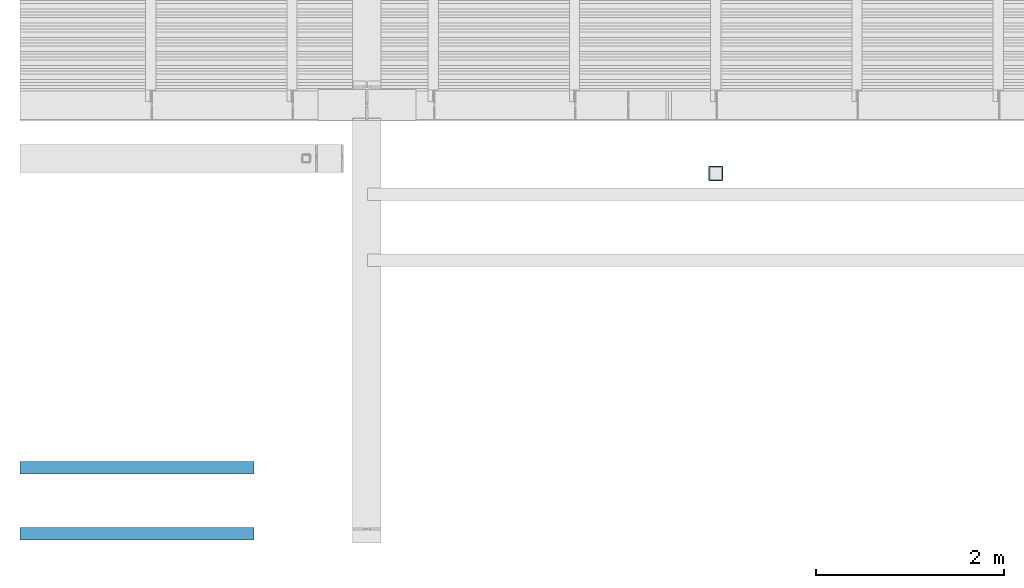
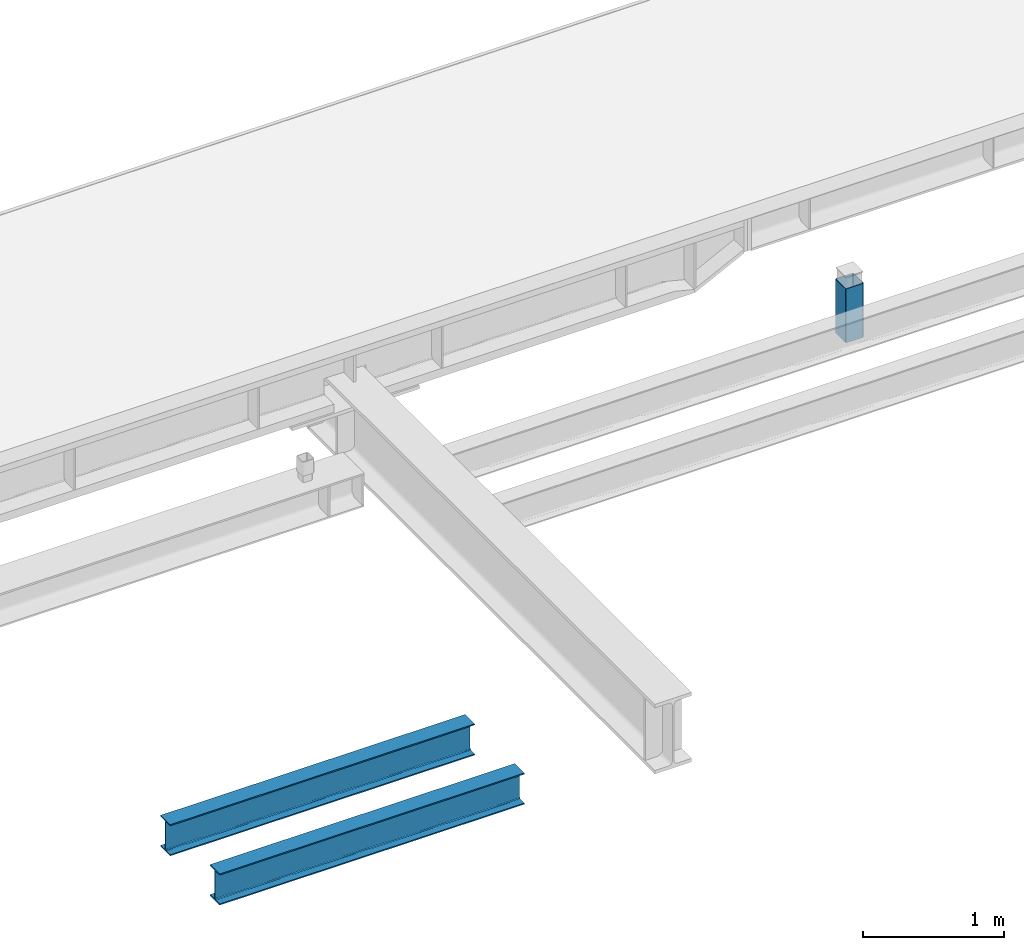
# One storey, part 4 of 12: 2 beams, 1 column.
"""IFC2X3 building model written with IfcOpenShell, lengths in millimetres."""

from ifc_helpers import new_model, entity, si_unit, converted_unit, derived_unit, direction, frame, origin_with_axes, place, context, subcontext, project, spatial, faceted_brep, type_object, element, save


model = new_model("IFC2X3")

# Units and contexts
model_context = context("Model", 3, precision=0.01, world=frame((0.0, 4.29681676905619e-09, 0.0)), true_north=direction((4.01073788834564e-13, 1.0)))
plan_context = context("Plan", 3, precision=0.01, world=frame((0.0, 4.29681676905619e-09, 0.0)), true_north=direction((4.01073788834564e-13, 1.0)))
body_context = subcontext(model_context, "Body", "Model", "MODEL_VIEW")
ifc_project = project(units=[converted_unit("PLANEANGLEUNIT", "DEGREE", entity("IfcPositiveLengthMeasure", 0.0174532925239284), si_unit("PLANEANGLEUNIT", "RADIAN"), dimensions=[0, 0, 0, 0, 0, 0, 0]), si_unit("AREAUNIT", "SQUARE_METRE"), si_unit("LENGTHUNIT", "METRE", prefix="MILLI"), si_unit("MASSUNIT", "GRAM", prefix="KILO"), si_unit("POWERUNIT", "WATT"), si_unit("PRESSUREUNIT", "PASCAL"), si_unit("FORCEUNIT", "NEWTON", prefix="KILO"), si_unit("ELECTRICVOLTAGEUNIT", "VOLT"), si_unit("ELECTRICCURRENTUNIT", "AMPERE"), si_unit("THERMODYNAMICTEMPERATUREUNIT", "DEGREE_CELSIUS"), si_unit("TIMEUNIT", "SECOND"), si_unit("VOLUMEUNIT", "CUBIC_METRE"), derived_unit("LINEARVELOCITYUNIT", [(si_unit("LENGTHUNIT", "METRE"), 1), (si_unit("TIMEUNIT", "SECOND"), -1)]), derived_unit("VOLUMETRICFLOWRATEUNIT", [(si_unit("VOLUMEUNIT", "CUBIC_METRE"), 1), (si_unit("TIMEUNIT", "SECOND"), -1)]), derived_unit("THERMALTRANSMITTANCEUNIT", [(si_unit("POWERUNIT", "WATT"), 1), (si_unit("THERMODYNAMICTEMPERATUREUNIT", "KELVIN"), -1), (si_unit("AREAUNIT", "SQUARE_METRE"), -1)]), derived_unit("SOUNDPRESSUREUNIT", [(si_unit("PRESSUREUNIT", "PASCAL"), 1)])], contexts=[model_context, plan_context])

# Site, building, storey
site_placement = place(None, frame((0.0, -4.29681676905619e-09, 0.0), z_axis=(0.0, 0.0, 1.0), x_axis=(1.0, 0.0, 0.0)))
site = spatial("IfcSite", under=ifc_project, at=site_placement, Name="Gardermoen", CompositionType="ELEMENT")
building_placement = place(site_placement, frame((0.0, 4.29681676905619e-09, 0.0), z_axis=(0.0, 0.0, 1.0), x_axis=(1.0, 0.0, 0.0)))
building = spatial("IfcBuilding", under=site, at=building_placement, Name="TH", CompositionType="ELEMENT")
storey_placement = place(building_placement, origin_with_axes())
storey = spatial("IfcBuildingStorey", under=building, at=storey_placement, Name="D", CompositionType="ELEMENT", Elevation=0.0)

# Column
column_type = type_object("IfcColumnType", Name="RHS150*5", PredefinedType="NOTDEFINED")
column_placement = place(storey_placement, frame((902499.999766, 484274.995625, 205240.0), z_axis=(0.0, 0.0, 1.0), x_axis=(0.0, -1.0, 0.0)))
element("IfcColumn", 1, at=column_placement, inside=storey, type_object=column_type, Name="STÅLSØYLE", ObjectType="RHS150*5", context=body_context, shape_type="Brep", body=[
    faceted_brep([(-70.0000185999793, 62.5, 3960.0), (-70.0000185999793, -62.5, 3960.0), (-69.9999999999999, -62.5, 4425.0000028), (-69.9999999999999, 62.5, 4425.0000028), (-69.8559082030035, -63.963177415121, 3959.9999993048), (-69.8558896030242, -63.963177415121, 4425.00000279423), (-69.429115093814, -65.3701257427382, 3959.99999827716), (-69.4290964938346, -65.3701257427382, 4425.00000277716), (-68.7360406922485, -66.666776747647, 3959.99999824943), (-68.736022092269, -66.666776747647, 4425.00000274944), (-67.8033194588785, -67.8033008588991, 3959.99999821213), (-67.803300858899, -67.8033008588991, 4425.00000271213), (-66.6667953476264, -68.7360220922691, 3959.99999849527), (-66.666776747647, -68.7360220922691, 4425.00000266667), (-65.3701443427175, -69.4290964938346, 3959.99999901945), (-65.3701257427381, -69.4290964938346, 4425.0000026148), (-63.9631960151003, -69.8558896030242, 3959.99999942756), (-63.9631774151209, -69.8558896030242, 4425.00000255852), (-62.5000185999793, -70.0, 3959.99999987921), (-62.5, -70.0, 4425.0000025), (62.4999814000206, -70.0, 3959.99999552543), (62.5, -70.0, 4424.9999975), (63.9631588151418, -69.8558896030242, 3960.0), (63.9631774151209, -69.8558896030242, 4424.99999744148), (65.370107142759, -69.4290964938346, 3959.99999977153), (65.3701257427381, -69.4290964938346, 4424.9999973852), (66.6667581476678, -68.7360220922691, 3959.99999941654), (66.666776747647, -68.7360220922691, 4424.99999733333), (67.8032822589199, -67.8033008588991, 3959.99999872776), (67.803300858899, -67.8033008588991, 4424.99999728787), (68.7360034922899, -66.666776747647, 3959.99999849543), (68.736022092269, -66.666776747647, 4424.99999725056), (69.4290778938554, -65.3701257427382, 3959.99999899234), (69.4290964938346, -65.3701257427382, 4424.99999722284), (69.855871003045, -63.963177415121, 3959.99999941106), (69.8558896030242, -63.963177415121, 4424.99999720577), (69.9999814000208, -62.5, 3959.99999980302), (69.9999999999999, -62.5, 4424.9999972), (69.9999814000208, 62.5, 3960.0), (69.9999999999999, 62.5, 4424.9999972), (69.855871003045, 63.963177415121, 3959.99999980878), (69.8558896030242, 63.963177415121, 4424.99999720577), (69.4290778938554, 65.3701257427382, 3959.99999942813), (69.4290964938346, 65.3701257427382, 4424.99999722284), (68.7360034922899, 66.666776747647, 3959.99999902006), (68.736022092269, 66.666776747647, 4424.99999725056), (67.8032822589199, 67.8033008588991, 3959.99999853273), (67.803300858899, 67.8033008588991, 4424.99999728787), (66.6667581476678, 68.7360220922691, 3959.99999876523), (66.666776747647, 68.7360220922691, 4424.99999733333), (65.370107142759, 69.4290964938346, 3959.9999994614), (65.3701257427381, 69.4290964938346, 4424.9999973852), (63.9631588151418, 69.8558896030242, 3959.99999982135), (63.9631774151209, 69.8558896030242, 4424.99999744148), (62.4999814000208, 70.0, 3960.0), (62.5, 70.0, 4424.9999975), (-62.5000185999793, 70.0, 3960.0), (-62.5, 70.0, 4425.0000025), (-63.9631960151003, 69.8558896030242, 3960.0), (-63.9631774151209, 69.8558896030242, 4425.00000255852), (-65.3701443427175, 69.4290964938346, 3959.99999947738), (-65.3701257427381, 69.4290964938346, 4425.0000026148), (-66.6667953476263, 68.7360220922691, 3959.99999906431), (-66.666776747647, 68.7360220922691, 4425.00000266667), (-67.8033194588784, 67.8033008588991, 3959.99999853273), (-67.803300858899, 67.8033008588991, 4425.00000271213), (-68.7360406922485, 66.666776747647, 3959.99999824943), (-68.736022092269, 66.666776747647, 4425.00000274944), (-69.429115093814, 65.3701257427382, 3959.99999827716), (-69.4290964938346, 65.3701257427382, 4425.00000277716), (-69.8559082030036, 63.963177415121, 3959.99999829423), (-69.8558896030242, 63.963177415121, 4425.00000279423), (-75.0000185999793, -62.5, 3960.0), (-75.0000185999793, 62.5, 3960.0), (-74.9999999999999, 62.5, 4425.000003), (-74.9999999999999, -62.5, 4425.000003), (-74.7598346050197, 64.9386290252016, 3959.99999930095), (-74.7598160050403, 64.9386290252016, 4425.00000299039), (-74.0485127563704, 67.2835429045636, 3959.99999846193), (-74.048494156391, 67.2835429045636, 4425.00000296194), (-72.8933887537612, 69.444627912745, 3959.99999841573), (-72.8933701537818, 69.444627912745, 4425.00000291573), (-71.3388533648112, 71.3388347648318, 3959.99999835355), (-71.3388347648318, 71.3388347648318, 4425.00000285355), (-69.4446465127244, 72.8933701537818, 3959.99999858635), (-69.444627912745, 72.8933701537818, 4425.00000277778), (-67.2835615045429, 74.0484941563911, 3959.99999907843), (-67.2835429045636, 74.0484941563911, 4425.00000269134), (-64.9386476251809, 74.7598160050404, 3959.9999994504), (-64.9386290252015, 74.7598160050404, 4425.00000259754), (-62.5000185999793, 75.0, 3959.99999984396), (-62.5, 75.0, 4425.0000025), (62.4999814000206, 75.0, 3959.99999552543), (62.5, 75.0, 4424.9999975), (64.9386104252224, 74.7598160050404, 3959.9999998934), (64.9386290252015, 74.7598160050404, 4424.99999740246), (67.2835243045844, 74.0484941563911, 3959.9999997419), (67.2835429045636, 74.0484941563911, 4424.99999730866), (69.4446093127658, 72.8933701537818, 3959.9999994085), (69.444627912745, 72.8933701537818, 4424.99999722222), (71.3388161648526, 71.3388347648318, 3959.99999877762), (71.3388347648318, 71.3388347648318, 4424.99999714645), (72.8933515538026, 69.444627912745, 3959.99999858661), (72.8933701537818, 69.444627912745, 4424.99999708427), (74.0484755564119, 67.2835429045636, 3959.99999903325), (74.048494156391, 67.2835429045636, 4424.99999703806), (74.7597974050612, 64.9386290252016, 3959.9999994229), (74.7598160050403, 64.9386290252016, 4424.99999700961), (74.9999814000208, 62.5, 3959.99999980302), (74.9999999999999, 62.5, 4424.999997), (74.9999814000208, -62.5, 3960.0), (74.9999999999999, -62.5, 4424.999997), (74.7597974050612, -64.9386290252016, 3959.99999981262), (74.7598160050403, -64.9386290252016, 4424.99999700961), (74.0484755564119, -67.2835429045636, 3959.99999945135), (74.048494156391, -67.2835429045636, 4424.99999703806), (72.8933515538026, -69.444627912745, 3959.99999907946), (72.8933701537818, -69.444627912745, 4424.99999708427), (71.3388161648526, -71.3388347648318, 3959.9999986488), (71.3388347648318, -71.3388347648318, 4424.99999714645), (69.4446093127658, -72.8933701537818, 3959.99999884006), (69.444627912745, -72.8933701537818, 4424.99999722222), (67.2835243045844, -74.0484941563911, 3959.99999948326), (67.2835429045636, -74.0484941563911, 4424.99999730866), (64.9386104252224, -74.7598160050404, 3959.99999982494), (64.9386290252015, -74.7598160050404, 4424.99999740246), (62.4999814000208, -75.0, 3960.0), (62.5, -75.0, 4424.9999975), (-62.5000185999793, -75.0, 3960.0), (-62.5, -75.0, 4425.0000025), (-64.9386476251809, -74.7598160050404, 3960.0), (-64.9386290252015, -74.7598160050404, 4425.00000259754), (-67.2835615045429, -74.0484941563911, 3959.99999953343), (-67.2835429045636, -74.0484941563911, 4425.00000269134), (-69.4446465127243, -72.8933701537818, 3959.99999915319), (-69.444627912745, -72.8933701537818, 4425.00000277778), (-71.3388533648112, -71.3388347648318, 3959.9999986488), (-71.3388347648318, -71.3388347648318, 4425.00000285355), (-72.8933887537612, -69.444627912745, 3959.99999841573), (-72.8933701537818, -69.444627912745, 4425.00000291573), (-74.0485127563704, -67.2835429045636, 3959.99999846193), (-74.048494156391, -67.2835429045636, 4425.00000296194), (-74.7598346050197, -64.9386290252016, 3959.99999849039), (-74.7598160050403, -64.9386290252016, 4425.00000299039), (-74.7598346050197, -64.9386290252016, 3960.0), (-74.0485127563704, -67.2835429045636, 3960.0), (-72.8933887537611, -69.444627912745, 3960.0), (-71.3388533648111, -71.3388347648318, 3960.0), (-69.4446465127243, -72.8933701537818, 3960.0), (-67.2835615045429, -74.0484941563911, 3960.0), (64.9386104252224, -74.7598160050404, 3960.0), (67.2835243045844, -74.0484941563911, 3960.0), (69.4446093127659, -72.8933701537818, 3960.0), (71.3388161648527, -71.3388347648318, 3960.0), (72.8933515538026, -69.444627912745, 3960.0), (74.0484755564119, -67.2835429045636, 3960.0), (74.7597974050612, -64.9386290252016, 3960.0), (74.9999814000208, 62.5, 3960.0), (74.7597974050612, 64.9386290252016, 3960.0), (74.0484755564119, 67.2835429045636, 3960.0), (72.8933515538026, 69.444627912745, 3960.0), (71.3388161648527, 71.3388347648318, 3960.0), (69.4446093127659, 72.8933701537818, 3960.0), (67.2835243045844, 74.0484941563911, 3960.0), (64.9386104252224, 74.7598160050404, 3960.0), (62.4999814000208, 75.0, 3960.0), (-62.5000185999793, 75.0, 3960.0), (-64.9386476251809, 74.7598160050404, 3960.0), (-67.2835615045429, 74.0484941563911, 3960.0), (-69.4446465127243, 72.8933701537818, 3960.0), (-71.3388533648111, 71.3388347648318, 3960.0), (-72.8933887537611, 69.444627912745, 3960.0), (-74.0485127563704, 67.2835429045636, 3960.0), (-74.7598346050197, 64.9386290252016, 3960.0), (-69.8559082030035, 63.963177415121, 3960.0), (-69.4291150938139, 65.3701257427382, 3960.0), (-68.7360406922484, 66.666776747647, 3960.0), (-67.8033194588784, 67.8033008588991, 3960.0), (-66.6667953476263, 68.7360220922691, 3960.0), (-65.3701443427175, 69.4290964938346, 3960.0), (63.9631588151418, 69.8558896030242, 3960.0), (65.370107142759, 69.4290964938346, 3960.0), (66.6667581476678, 68.7360220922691, 3960.0), (67.8032822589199, 67.8033008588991, 3960.0), (68.7360034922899, 66.666776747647, 3960.0), (69.4290778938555, 65.3701257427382, 3960.0), (69.8558710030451, 63.963177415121, 3960.0), (69.9999814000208, -62.5, 3960.0), (69.8558710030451, -63.963177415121, 3960.0), (69.4290778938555, -65.3701257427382, 3960.0), (68.7360034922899, -66.666776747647, 3960.0), (67.8032822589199, -67.8033008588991, 3960.0), (66.6667581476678, -68.7360220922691, 3960.0), (65.370107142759, -69.4290964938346, 3960.0), (62.4999814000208, -70.0, 3960.0), (-62.5000185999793, -70.0, 3960.0), (-63.9631960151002, -69.8558896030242, 3960.0), (-65.3701443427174, -69.4290964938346, 3960.0), (-66.6667953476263, -68.7360220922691, 3960.0), (-67.8033194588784, -67.8033008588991, 3960.0), (-68.7360406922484, -66.666776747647, 3960.0), (-69.4291150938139, -65.3701257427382, 3960.0), (-69.8559082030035, -63.963177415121, 3960.0)], [[[0, 1, 2, 3]], [[1, 4, 5, 2]], [[4, 6, 7, 5]], [[6, 8, 9, 7]], [[8, 10, 11, 9]], [[10, 12, 13, 11]], [[12, 14, 15, 13]], [[14, 16, 17, 15]], [[16, 18, 19, 17]], [[18, 20, 21, 19]], [[20, 22, 23, 21]], [[22, 24, 25, 23]], [[24, 26, 27, 25]], [[26, 28, 29, 27]], [[28, 30, 31, 29]], [[30, 32, 33, 31]], [[32, 34, 35, 33]], [[34, 36, 37, 35]], [[36, 38, 39, 37]], [[38, 40, 41, 39]], [[40, 42, 43, 41]], [[42, 44, 45, 43]], [[44, 46, 47, 45]], [[46, 48, 49, 47]], [[48, 50, 51, 49]], [[50, 52, 53, 51]], [[52, 54, 55, 53]], [[54, 56, 57, 55]], [[56, 58, 59, 57]], [[58, 60, 61, 59]], [[60, 62, 63, 61]], [[62, 64, 65, 63]], [[64, 66, 67, 65]], [[66, 68, 69, 67]], [[68, 70, 71, 69]], [[70, 0, 3, 71]], [[72, 73, 74, 75]], [[73, 76, 77, 74]], [[76, 78, 79, 77]], [[78, 80, 81, 79]], [[80, 82, 83, 81]], [[82, 84, 85, 83]], [[84, 86, 87, 85]], [[86, 88, 89, 87]], [[88, 90, 91, 89]], [[90, 92, 93, 91]], [[92, 94, 95, 93]], [[94, 96, 97, 95]], [[96, 98, 99, 97]], [[98, 100, 101, 99]], [[100, 102, 103, 101]], [[102, 104, 105, 103]], [[104, 106, 107, 105]], [[106, 108, 109, 107]], [[108, 110, 111, 109]], [[110, 112, 113, 111]], [[112, 114, 115, 113]], [[114, 116, 117, 115]], [[116, 118, 119, 117]], [[118, 120, 121, 119]], [[120, 122, 123, 121]], [[122, 124, 125, 123]], [[124, 126, 127, 125]], [[126, 128, 129, 127]], [[128, 130, 131, 129]], [[130, 132, 133, 131]], [[132, 134, 135, 133]], [[134, 136, 137, 135]], [[136, 138, 139, 137]], [[138, 140, 141, 139]], [[140, 142, 143, 141]], [[142, 72, 75, 143]], [[75, 74, 77, 79, 81, 83, 85, 87, 89, 91, 93, 95, 97, 99, 101, 103, 105, 107, 109, 111, 113, 115, 117, 119, 121, 123, 125, 127, 129, 131, 133, 135, 137, 139, 141, 143], [3, 2, 5, 7, 9, 11, 13, 15, 17, 19, 21, 23, 25, 27, 29, 31, 33, 35, 37, 39, 41, 43, 45, 47, 49, 51, 53, 55, 57, 59, 61, 63, 65, 67, 69, 71]], [[144, 145, 146, 147, 148, 149, 130, 128, 126, 150, 151, 152, 153, 154, 155, 156, 110, 157, 158, 159, 160, 161, 162, 163, 164, 165, 166, 167, 168, 169, 170, 171, 172, 173, 73, 72], [174, 175, 176, 177, 178, 179, 58, 56, 54, 180, 181, 182, 183, 184, 185, 186, 38, 187, 188, 189, 190, 191, 192, 193, 22, 194, 195, 196, 197, 198, 199, 200, 201, 202, 1, 0]]], orient=[[False], [False], [False], [False], [False], [False], [False], [False], [False], [False], [False], [False], [False], [False], [False], [False], [False], [False], [False], [False], [False], [False], [False], [False], [False], [False], [False], [False], [False], [False], [False], [False], [False], [False], [False], [False], [False], [False], [False], [False], [False], [False], [False], [False], [False], [False], [False], [False], [False], [False], [False], [False], [False], [False], [False], [False], [False], [False], [False], [False], [False], [False], [False], [False], [False], [False], [False], [False], [False], [False], [False], [False], [False, False], [False, False]]),
])

# Beams
beam_type = type_object("IfcBeamType", Name="IPE270", PredefinedType="NOTDEFINED")
beam_1_placement = place(storey_placement, frame((889357.771809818, 481150.0, 209360.0), z_axis=(0.0, 0.0, 1.0), x_axis=(1.0, 0.0, 0.0)))
element("IfcBeam", 2, at=beam_1_placement, inside=storey, type_object=beam_type, Name="STÅLBJELKE", ObjectType="IPE270", context=body_context, shape_type="Brep", body=[
    faceted_brep([(5754.13435875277, 67.5, -135.0), (5754.13435875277, -67.5, -135.0), (8240.27000000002, -67.5, -135.0), (8240.27000000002, 67.5, -135.0), (5754.13435875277, -67.5, -124.80000019), (8240.27000000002, -67.5, -124.80000019), (5754.13435875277, -18.2999999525, -124.80000019), (8240.27000000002, -18.2999999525, -124.80000019), (5754.13435875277, -15.3736451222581, -124.511779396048), (8240.27000000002, -15.3736451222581, -124.511779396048), (5754.13435875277, -12.5597484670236, -123.658193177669), (8240.27000000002, -12.5597484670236, -123.658193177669), (5754.13435875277, -9.96644645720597, -122.272044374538), (8240.27000000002, -9.96644645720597, -122.272044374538), (5754.13435875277, -7.69339823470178, -120.406601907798), (8240.27000000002, -7.69339823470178, -120.406601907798), (5754.13435875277, -5.82795576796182, -118.133553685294), (8240.27000000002, -5.82795576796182, -118.133553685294), (5754.13435875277, -4.4418069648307, -115.540251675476), (8240.27000000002, -4.4418069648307, -115.540251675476), (5754.13435875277, -3.58822074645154, -112.726355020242), (8240.27000000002, -3.58822074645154, -112.726355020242), (5754.13435875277, -3.2999999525, -109.80000019), (8240.27000000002, -3.2999999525, -109.80000019), (5754.13435875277, -3.2999999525, 109.80000019), (8240.27000000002, -3.2999999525, 109.80000019), (5754.13435875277, -3.58822074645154, 112.726355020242), (8240.27000000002, -3.58822074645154, 112.726355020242), (5754.13435875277, -4.4418069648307, 115.540251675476), (8240.27000000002, -4.4418069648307, 115.540251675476), (5754.13435875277, -5.82795576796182, 118.133553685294), (8240.27000000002, -5.82795576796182, 118.133553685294), (5754.13435875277, -7.69339823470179, 120.406601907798), (8240.27000000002, -7.69339823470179, 120.406601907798), (5754.13435875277, -9.96644645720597, 122.272044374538), (8240.27000000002, -9.96644645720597, 122.272044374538), (5754.13435875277, -12.5597484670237, 123.658193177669), (8240.27000000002, -12.5597484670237, 123.658193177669), (5754.13435875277, -15.3736451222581, 124.511779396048), (8240.27000000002, -15.3736451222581, 124.511779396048), (5754.13435875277, -18.2999999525, 124.80000019), (8240.27000000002, -18.2999999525, 124.80000019), (5754.13435875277, -67.5, 124.80000019), (8240.27000000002, -67.5, 124.80000019), (5754.13435875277, -67.5, 135.0), (8240.27000000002, -67.5, 135.0), (5754.13435875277, 67.5, 135.0), (8240.27000000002, 67.5, 135.0), (5754.13435875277, 67.5, 124.80000019), (8240.27000000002, 67.5, 124.80000019), (5754.13435875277, 18.2999999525, 124.80000019), (8240.27000000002, 18.2999999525, 124.80000019), (5754.13435875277, 15.3736451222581, 124.511779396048), (8240.27000000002, 15.3736451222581, 124.511779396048), (5754.13435875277, 12.5597484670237, 123.658193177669), (8240.27000000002, 12.5597484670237, 123.658193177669), (5754.13435875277, 9.96644645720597, 122.272044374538), (8240.27000000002, 9.96644645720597, 122.272044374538), (5754.13435875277, 7.69339823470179, 120.406601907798), (8240.27000000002, 7.69339823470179, 120.406601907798), (5754.13435875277, 5.82795576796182, 118.133553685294), (8240.27000000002, 5.82795576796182, 118.133553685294), (5754.13435875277, 4.4418069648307, 115.540251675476), (8240.27000000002, 4.4418069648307, 115.540251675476), (5754.13435875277, 3.58822074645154, 112.726355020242), (8240.27000000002, 3.58822074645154, 112.726355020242), (5754.13435875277, 3.2999999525, 109.80000019), (8240.27000000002, 3.2999999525, 109.80000019), (5754.13435875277, 3.2999999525, -109.80000019), (8240.27000000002, 3.2999999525, -109.80000019), (5754.13435875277, 3.58822074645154, -112.726355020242), (8240.27000000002, 3.58822074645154, -112.726355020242), (5754.13435875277, 4.4418069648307, -115.540251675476), (8240.27000000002, 4.4418069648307, -115.540251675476), (5754.13435875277, 5.82795576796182, -118.133553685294), (8240.27000000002, 5.82795576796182, -118.133553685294), (5754.13435875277, 7.69339823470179, -120.406601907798), (8240.27000000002, 7.69339823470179, -120.406601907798), (5754.13435875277, 9.96644645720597, -122.272044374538), (8240.27000000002, 9.96644645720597, -122.272044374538), (5754.13435875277, 12.5597484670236, -123.658193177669), (8240.27000000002, 12.5597484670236, -123.658193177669), (5754.13435875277, 15.3736451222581, -124.511779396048), (8240.27000000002, 15.3736451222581, -124.511779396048), (5754.13435875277, 18.2999999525, -124.80000019), (8240.27000000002, 18.2999999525, -124.80000019), (5754.13435875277, 67.5, -124.80000019), (8240.27000000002, 67.5, -124.80000019)], [[[0, 1, 2, 3]], [[1, 4, 5, 2]], [[4, 6, 7, 5]], [[6, 8, 9, 7]], [[8, 10, 11, 9]], [[10, 12, 13, 11]], [[12, 14, 15, 13]], [[14, 16, 17, 15]], [[16, 18, 19, 17]], [[18, 20, 21, 19]], [[20, 22, 23, 21]], [[22, 24, 25, 23]], [[24, 26, 27, 25]], [[26, 28, 29, 27]], [[28, 30, 31, 29]], [[30, 32, 33, 31]], [[32, 34, 35, 33]], [[34, 36, 37, 35]], [[36, 38, 39, 37]], [[38, 40, 41, 39]], [[40, 42, 43, 41]], [[42, 44, 45, 43]], [[44, 46, 47, 45]], [[46, 48, 49, 47]], [[48, 50, 51, 49]], [[50, 52, 53, 51]], [[52, 54, 55, 53]], [[54, 56, 57, 55]], [[56, 58, 59, 57]], [[58, 60, 61, 59]], [[60, 62, 63, 61]], [[62, 64, 65, 63]], [[64, 66, 67, 65]], [[66, 68, 69, 67]], [[68, 70, 71, 69]], [[70, 72, 73, 71]], [[72, 74, 75, 73]], [[74, 76, 77, 75]], [[76, 78, 79, 77]], [[78, 80, 81, 79]], [[80, 82, 83, 81]], [[82, 84, 85, 83]], [[84, 86, 87, 85]], [[86, 0, 3, 87]], [[3, 2, 5, 7, 9, 11, 13, 15, 17, 19, 21, 23, 25, 27, 29, 31, 33, 35, 37, 39, 41, 43, 45, 47, 49, 51, 53, 55, 57, 59, 61, 63, 65, 67, 69, 71, 73, 75, 77, 79, 81, 83, 85, 87]], [[86, 84, 82, 80, 78, 76, 74, 72, 70, 68, 66, 64, 62, 60, 58, 56, 54, 52, 50, 48, 46, 44, 42, 40, 38, 36, 34, 32, 30, 28, 26, 24, 22, 20, 18, 16, 14, 12, 10, 8, 6, 4, 1, 0]]], orient=[[False], [False], [False], [False], [False], [False], [False], [False], [False], [False], [False], [False], [False], [False], [False], [False], [False], [False], [False], [False], [False], [False], [False], [False], [False], [False], [False], [False], [False], [False], [False], [False], [False], [False], [False], [False], [False], [False], [False], [False], [False], [False], [False], [False], [False], [False]]),
])
beam_2_placement = place(storey_placement, frame((889357.771809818, 480450.0, 209360.0), z_axis=(0.0, 0.0, 1.0), x_axis=(1.0, 0.0, 0.0)))
element("IfcBeam", 3, at=beam_2_placement, inside=storey, type_object=beam_type, Name="STÅLBJELKE", ObjectType="IPE270", context=body_context, shape_type="Brep", body=[
    faceted_brep([(5754.13435875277, 67.5, -135.0), (5754.13435875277, -67.5, -135.0), (8240.27000000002, -67.5, -135.0), (8240.27000000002, 67.5, -135.0), (5754.13435875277, -67.5, -124.80000019), (8240.27000000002, -67.5, -124.80000019), (5754.13435875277, -18.2999999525, -124.80000019), (8240.27000000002, -18.2999999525, -124.80000019), (5754.13435875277, -15.3736451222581, -124.511779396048), (8240.27000000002, -15.3736451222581, -124.511779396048), (5754.13435875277, -12.5597484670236, -123.658193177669), (8240.27000000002, -12.5597484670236, -123.658193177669), (5754.13435875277, -9.96644645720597, -122.272044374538), (8240.27000000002, -9.96644645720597, -122.272044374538), (5754.13435875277, -7.69339823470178, -120.406601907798), (8240.27000000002, -7.69339823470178, -120.406601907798), (5754.13435875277, -5.82795576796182, -118.133553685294), (8240.27000000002, -5.82795576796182, -118.133553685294), (5754.13435875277, -4.4418069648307, -115.540251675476), (8240.27000000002, -4.4418069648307, -115.540251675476), (5754.13435875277, -3.58822074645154, -112.726355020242), (8240.27000000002, -3.58822074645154, -112.726355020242), (5754.13435875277, -3.2999999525, -109.80000019), (8240.27000000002, -3.2999999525, -109.80000019), (5754.13435875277, -3.2999999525, 109.80000019), (8240.27000000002, -3.2999999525, 109.80000019), (5754.13435875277, -3.58822074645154, 112.726355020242), (8240.27000000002, -3.58822074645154, 112.726355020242), (5754.13435875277, -4.4418069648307, 115.540251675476), (8240.27000000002, -4.4418069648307, 115.540251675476), (5754.13435875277, -5.82795576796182, 118.133553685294), (8240.27000000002, -5.82795576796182, 118.133553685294), (5754.13435875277, -7.69339823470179, 120.406601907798), (8240.27000000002, -7.69339823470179, 120.406601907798), (5754.13435875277, -9.96644645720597, 122.272044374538), (8240.27000000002, -9.96644645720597, 122.272044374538), (5754.13435875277, -12.5597484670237, 123.658193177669), (8240.27000000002, -12.5597484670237, 123.658193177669), (5754.13435875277, -15.3736451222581, 124.511779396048), (8240.27000000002, -15.3736451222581, 124.511779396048), (5754.13435875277, -18.2999999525, 124.80000019), (8240.27000000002, -18.2999999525, 124.80000019), (5754.13435875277, -67.5, 124.80000019), (8240.27000000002, -67.5, 124.80000019), (5754.13435875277, -67.5, 135.0), (8240.27000000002, -67.5, 135.0), (5754.13435875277, 67.5, 135.0), (8240.27000000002, 67.5, 135.0), (5754.13435875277, 67.5, 124.80000019), (8240.27000000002, 67.5, 124.80000019), (5754.13435875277, 18.2999999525, 124.80000019), (8240.27000000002, 18.2999999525, 124.80000019), (5754.13435875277, 15.3736451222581, 124.511779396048), (8240.27000000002, 15.3736451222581, 124.511779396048), (5754.13435875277, 12.5597484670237, 123.658193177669), (8240.27000000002, 12.5597484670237, 123.658193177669), (5754.13435875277, 9.96644645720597, 122.272044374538), (8240.27000000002, 9.96644645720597, 122.272044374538), (5754.13435875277, 7.69339823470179, 120.406601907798), (8240.27000000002, 7.69339823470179, 120.406601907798), (5754.13435875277, 5.82795576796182, 118.133553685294), (8240.27000000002, 5.82795576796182, 118.133553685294), (5754.13435875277, 4.4418069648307, 115.540251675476), (8240.27000000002, 4.4418069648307, 115.540251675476), (5754.13435875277, 3.58822074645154, 112.726355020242), (8240.27000000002, 3.58822074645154, 112.726355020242), (5754.13435875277, 3.2999999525, 109.80000019), (8240.27000000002, 3.2999999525, 109.80000019), (5754.13435875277, 3.2999999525, -109.80000019), (8240.27000000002, 3.2999999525, -109.80000019), (5754.13435875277, 3.58822074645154, -112.726355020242), (8240.27000000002, 3.58822074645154, -112.726355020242), (5754.13435875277, 4.4418069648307, -115.540251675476), (8240.27000000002, 4.4418069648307, -115.540251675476), (5754.13435875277, 5.82795576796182, -118.133553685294), (8240.27000000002, 5.82795576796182, -118.133553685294), (5754.13435875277, 7.69339823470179, -120.406601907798), (8240.27000000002, 7.69339823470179, -120.406601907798), (5754.13435875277, 9.96644645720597, -122.272044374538), (8240.27000000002, 9.96644645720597, -122.272044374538), (5754.13435875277, 12.5597484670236, -123.658193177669), (8240.27000000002, 12.5597484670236, -123.658193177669), (5754.13435875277, 15.3736451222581, -124.511779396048), (8240.27000000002, 15.3736451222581, -124.511779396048), (5754.13435875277, 18.2999999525, -124.80000019), (8240.27000000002, 18.2999999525, -124.80000019), (5754.13435875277, 67.5, -124.80000019), (8240.27000000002, 67.5, -124.80000019)], [[[0, 1, 2, 3]], [[1, 4, 5, 2]], [[4, 6, 7, 5]], [[6, 8, 9, 7]], [[8, 10, 11, 9]], [[10, 12, 13, 11]], [[12, 14, 15, 13]], [[14, 16, 17, 15]], [[16, 18, 19, 17]], [[18, 20, 21, 19]], [[20, 22, 23, 21]], [[22, 24, 25, 23]], [[24, 26, 27, 25]], [[26, 28, 29, 27]], [[28, 30, 31, 29]], [[30, 32, 33, 31]], [[32, 34, 35, 33]], [[34, 36, 37, 35]], [[36, 38, 39, 37]], [[38, 40, 41, 39]], [[40, 42, 43, 41]], [[42, 44, 45, 43]], [[44, 46, 47, 45]], [[46, 48, 49, 47]], [[48, 50, 51, 49]], [[50, 52, 53, 51]], [[52, 54, 55, 53]], [[54, 56, 57, 55]], [[56, 58, 59, 57]], [[58, 60, 61, 59]], [[60, 62, 63, 61]], [[62, 64, 65, 63]], [[64, 66, 67, 65]], [[66, 68, 69, 67]], [[68, 70, 71, 69]], [[70, 72, 73, 71]], [[72, 74, 75, 73]], [[74, 76, 77, 75]], [[76, 78, 79, 77]], [[78, 80, 81, 79]], [[80, 82, 83, 81]], [[82, 84, 85, 83]], [[84, 86, 87, 85]], [[86, 0, 3, 87]], [[3, 2, 5, 7, 9, 11, 13, 15, 17, 19, 21, 23, 25, 27, 29, 31, 33, 35, 37, 39, 41, 43, 45, 47, 49, 51, 53, 55, 57, 59, 61, 63, 65, 67, 69, 71, 73, 75, 77, 79, 81, 83, 85, 87]], [[86, 84, 82, 80, 78, 76, 74, 72, 70, 68, 66, 64, 62, 60, 58, 56, 54, 52, 50, 48, 46, 44, 42, 40, 38, 36, 34, 32, 30, 28, 26, 24, 22, 20, 18, 16, 14, 12, 10, 8, 6, 4, 1, 0]]], orient=[[False], [False], [False], [False], [False], [False], [False], [False], [False], [False], [False], [False], [False], [False], [False], [False], [False], [False], [False], [False], [False], [False], [False], [False], [False], [False], [False], [False], [False], [False], [False], [False], [False], [False], [False], [False], [False], [False], [False], [False], [False], [False], [False], [False], [False], [False]]),
])

save(model, "model.ifc")
